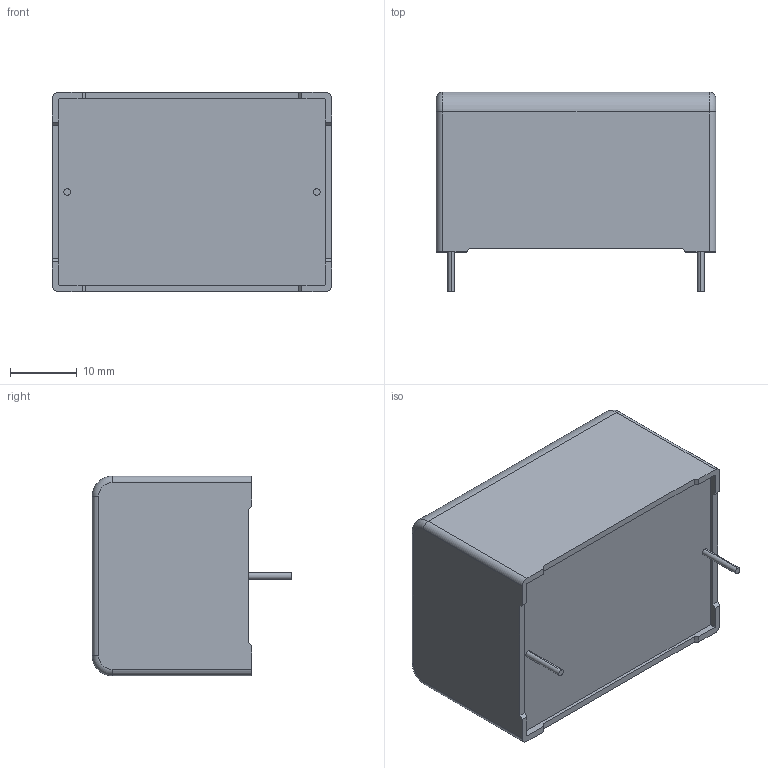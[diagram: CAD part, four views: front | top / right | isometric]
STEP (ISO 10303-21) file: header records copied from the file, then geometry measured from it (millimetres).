
FILE_DESCRIPTION (( 'STEP AP203' ), '1' );
FILE_NAME ('DC_Link_30x24x42_2pins.step', '2017-04-03T16:00:02', ( 'work' ), ( 'Hewlett-Packard Company' ), 'SwSTEP 2.0', 'SolidWorks 2017', '' );
FILE_SCHEMA (( 'CONFIG_CONTROL_DESIGN' ));
Length unit declared in the file: millimetre
Products named in the file (1): DC_Link_30x24x42_2pins
Bounding box: 42 x 30 x 30 mm (x, y, z)
Volume: 28883.6 mm3; surface area: 5869.6 mm2
Topology: 1 solids, 1 shells, 116 faces, 307 edges, 202 vertices
Faces by surface type: plane 80, cylinder 16, bspline 16, torus 4
Entity records: 4332 total; most frequent: CARTESIAN_POINT 1450, ORIENTED_EDGE 614, DIRECTION 513, EDGE_CURVE 307, LINE 239, VECTOR 239, VERTEX_POINT 202, AXIS2_PLACEMENT_3D 137
